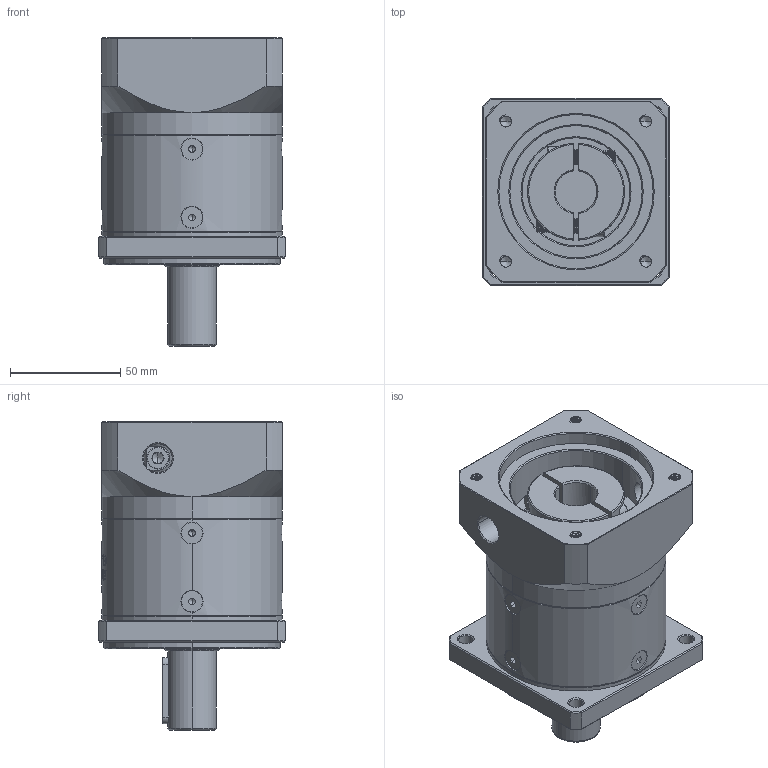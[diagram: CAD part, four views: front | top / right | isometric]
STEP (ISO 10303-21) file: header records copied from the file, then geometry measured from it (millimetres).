
FILE_DESCRIPTION (( 'STEP AP214' ), '1' );
FILE_NAME ('ZF080-D22-L1-P2-19-70-90-M6.step', '2023-08-19T05:31:35', ( '' ), ( '' ), 'SwSTEP 2.0', 'SolidWorks 2016', '' );
FILE_SCHEMA (( 'AUTOMOTIVE_DESIGN' ));
Length unit declared in the file: millimetre
Products named in the file (1): ZF080-D22-L1-P2-19-70-90-M6
Bounding box: 85 x 85 x 140 mm (x, y, z)
Volume: 533999.3 mm3; surface area: 86467.6 mm2
Topology: 13 solids, 13 shells, 2224 faces, 5828 edges, 3702 vertices
Faces by surface type: plane 1066, bspline 394, cylinder 390, cone 337, torus 37
Entity records: 118996 total; most frequent: CARTESIAN_POINT 44829, ORIENTED_EDGE 11596, DIRECTION 8592, EDGE_CURVE 5798, VERTEX_POINT 3702, LINE 3078, VECTOR 3078, AXIS2_PLACEMENT_3D 2757
